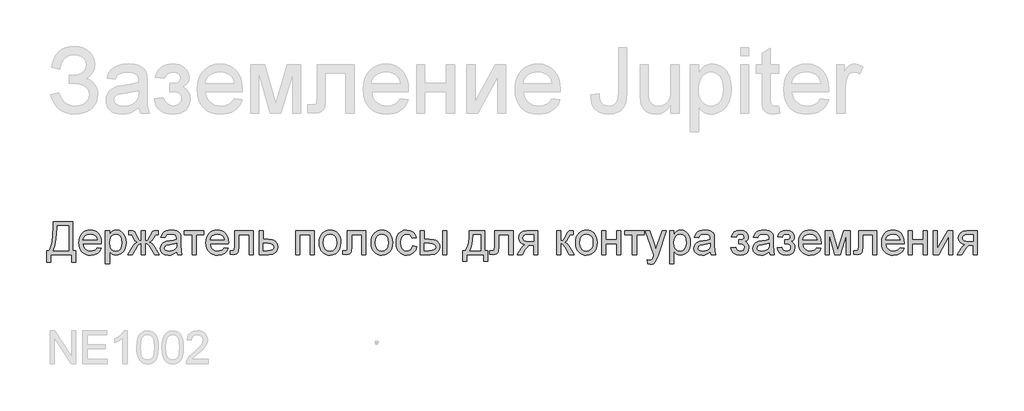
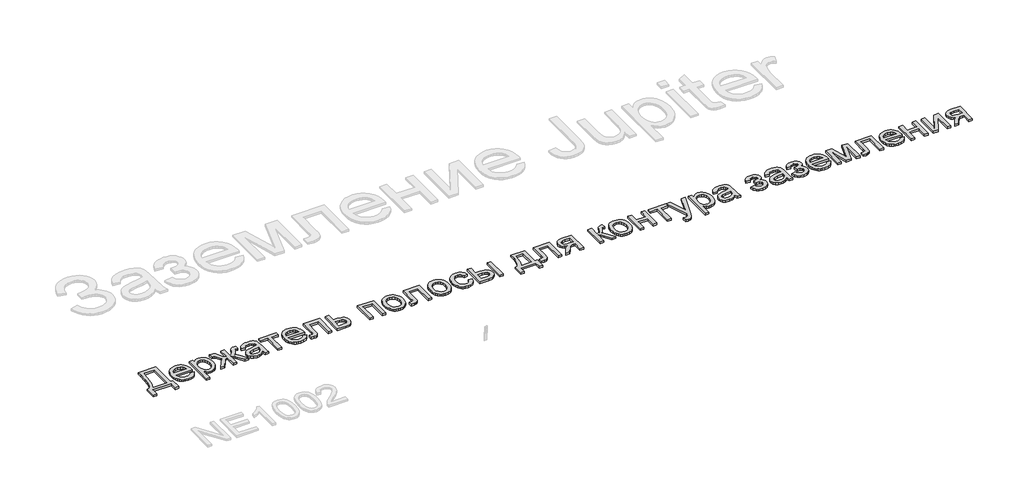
# One storey, part 77 of 124: 1 proxy.
"""IFC4 building model written with IfcOpenShell, lengths in millimetres."""

from ifc_helpers import new_model, si_unit, origin, origin_with_axes, place, context, project, spatial, polyline, outline, extrude, element, save

model = new_model("IFC4")

# Units and contexts
model_context = context("Model", 3, world=origin())
ifc_project = project(units=[si_unit("LENGTHUNIT", "METRE", prefix="MILLI")], contexts=[model_context])

# Site, building, storey
site = spatial("IfcSite", under=ifc_project)
building = spatial("IfcBuilding", under=site)
storey = spatial("IfcBuildingStorey", under=building, Name="Этаж 01", Elevation=0.0)

# Proxy
placement = place(None, origin())
element("IfcBuildingElementProxy", 1, Name="300", ObjectType="300", at=placement, inside=storey, context=model_context, shape_type="SweptSolid", body=[
    extrude(outline(polyline([(32968.1208754, -49773.1294316), (33147.0586778, -49773.1294316), (33147.0586778, -50036.8272457), (33175.3120151, -50036.8272457), (33175.3120151, -50145.1317051), (33137.6408988, -50145.1317051), (33137.6408988, -50074.498362), (32944.5764277, -50074.498362), (32944.5764277, -50145.1317051), (32906.9053114, -50145.1317051), (32906.9053114, -50036.8272457), (32930.4497591, -50036.8272457), (32946.9308725, -50002.6556069), (32958.7030963, -49954.5872257), (32965.7664306, -49892.6221021), (32968.1208754, -49816.7602362), (32968.1208754, -49773.1294316)]), holes=[polyline([(33109.3875615, -49810.8005479), (33005.7919917, -49810.8005479), (33005.7919917, -49825.9572861), (32998.1400462, -49929.1849739), (32986.8092807, -49988.8370394), (32968.1208754, -50036.8272457), (33109.3875615, -50036.8272457), (33109.3875615, -49810.8005479)])]), origin_with_axes(), (0.0, 0.0, 1.0), 20.0),
    extrude(outline(polyline([(33372.6439173, -50008.5739085), (33409.5792696, -50013.282798), (33396.2711384, -50041.1130709), (33375.0351502, -50061.9167978), (33346.3495517, -50074.8846381), (33310.6925893, -50079.2072515), (33287.318287, -50077.3425497), (33266.4915676, -50071.7484441), (33248.2124309, -50062.4249348), (33232.4808771, -50049.3720217), (33219.830335, -50032.9529884), (33210.7942335, -50013.5311184), (33205.3725726, -49991.1064115), (33203.5653523, -49965.6788678), (33205.3909667, -49939.3891007), (33210.8678099, -49916.2171336), (33219.9958819, -49896.1629663), (33232.7751827, -49879.226599), (33248.4653498, -49865.771315), (33266.3260207, -49856.1603979), (33286.3571953, -49850.3938476), (33308.5588737, -49848.4716642), (33330.0454815, -49850.3892491), (33349.4765486, -49856.1420038), (33366.8520751, -49865.7299283), (33382.172061, -49879.1530226), (33394.6777495, -49896.0526017), (33403.6103842, -49916.0699808), (33408.969965, -49939.2051598), (33410.756492, -49965.4581386), (33410.5357628, -49975.6116817), (33241.2364686, -49975.6116817), (33247.757177, -50003.8098366), (33262.9047181, -50024.5399871), (33284.7661057, -50037.2870982), (33311.4283533, -50041.5361352), (33331.477922, -50039.5679666), (33348.3637056, -50033.6634605), (33362.085704, -50023.4547352), (33372.6439173, -50008.5739085)]), holes=[polyline([(33241.2364686, -49937.9405654), (33373.0853757, -49937.9405654), (33367.99021, -49918.0381495), (33358.0022139, -49903.8011162), (33336.0396588, -49890.5573644), (33308.4117209, -49886.1427805), (33283.0186662, -49889.6652506), (33262.0218013, -49900.2326609), (33247.4260832, -49916.7045772), (33241.2364686, -49937.9405654)])]), origin_with_axes(), (0.0, 0.0, 1.0), 20.0),
    extrude(outline(polyline([(33448.4276083, -50159.2583737), (33448.4276083, -49853.1805537), (33486.0987246, -49853.1805537), (33486.0987246, -49890.115906), (33498.3859832, -49871.8965502), (33512.1447698, -49858.8827246), (33528.1844248, -49851.0744293), (33547.3142886, -49848.4716642), (33572.7901168, -49852.1136959), (33595.0653716, -49863.0397912), (33613.2019539, -49880.5877623), (33626.2617648, -49904.0954218), (33634.1528335, -49931.8521184), (33636.7831898, -49962.1472007), (33633.8125427, -49994.3644664), (33624.9006014, -50023.1788237), (33610.3324744, -50047.1279416), (33590.3932702, -50064.7494891), (33567.1707193, -50075.5928109), (33542.7525518, -50079.2072515), (33525.4345069, -50076.7884274), (33509.9742661, -50069.5319551), (33496.7397113, -50058.5782687), (33486.0987246, -50045.0678024), (33486.0987246, -50159.2583737), (33448.4276083, -50159.2583737)]), holes=[polyline([(33486.0987246, -49965.6052914), (33490.1730177, -49999.3768586), (33502.395897, -50022.9948827), (33520.4313118, -50036.9008221), (33541.9432115, -50041.5361352), (33563.804599, -50036.7352752), (33582.2998663, -50022.3326951), (33594.9090217, -49997.8501483), (33599.1120735, -49962.8093883), (33595.0101893, -49929.2217621), (33582.7045365, -49905.2726442), (33564.6967129, -49890.9252464), (33543.4883158, -49886.1427805), (33522.1971454, -49891.2287491), (33503.499543, -49906.4866548), (33490.4489292, -49931.4382511), (33486.0987246, -49965.6052914)])]), origin_with_axes(), (0.0, 0.0, 1.0), 20.0),
    extrude(outline(polyline([(33815.7209923, -49853.1805537), (33815.7209923, -49947.3583445), (33829.0107293, -49945.4177669), (33837.6835474, -49939.5960344), (33858.4688801, -49899.3129559), (33871.4367204, -49874.2050097), (33883.2641266, -49860.6853464), (33897.6299185, -49855.0567519), (33918.5072217, -49853.1805537), (33933.4432307, -49853.1805537), (33933.4432307, -49891.0723992), (33923.0689585, -49890.85167), (33903.6447891, -49894.7512192), (33890.1803081, -49919.1785836), (33874.5453233, -49945.9603929), (33852.2148862, -49959.5720267), (33864.6079109, -49964.874126), (33876.8445858, -49974.2321242), (33900.848886, -50005.1158177), (33942.8610098, -50074.498362), (33899.6716636, -50074.498362), (33858.3217273, -50006.0723109), (33847.018553, -49988.1104725), (33837.242089, -49977.6350327), (33827.3552604, -49972.5858523), (33815.7209923, -49970.9027922), (33815.7209923, -50074.498362), (33778.049876, -50074.498362), (33778.049876, -49970.9027922), (33766.5075784, -49972.5490641), (33756.6023556, -49977.4878799), (33746.7523152, -49987.8897433), (33735.3755645, -50005.9251581), (33694.0256283, -50074.498362), (33650.9098584, -50074.498362), (33692.7748295, -50005.1158177), (33716.9630707, -49974.2321242), (33729.2641249, -49964.874126), (33741.7031348, -49959.5720267), (33727.3189488, -49952.3615396), (33718.0115343, -49944.5624413), (33697.7044482, -49905.9348318), (33687.7716343, -49893.2061148), (33671.5112502, -49890.6309408), (33660.3276375, -49890.85167), (33660.3276375, -49853.1805537), (33665.9930202, -49853.1805537), (33699.0288234, -49855.5349985), (33716.1721244, -49865.5413887), (33735.3755645, -49899.3129559), (33755.940168, -49939.338517), (33764.6129861, -49945.3533876), (33778.049876, -49947.3583445), (33778.049876, -49853.1805537), (33815.7209923, -49853.1805537)])), origin_with_axes(), (0.0, 0.0, 1.0), 20.0),
    extrude(outline(polyline([(34102.9632541, -50046.2450248), (34084.9646275, -50061.6776745), (34066.432572, -50071.7760352), (34046.9440233, -50077.3494475), (34026.0759171, -50079.2072515), (33994.5944154, -50074.7374853), (33971.3718644, -50061.3281866), (33957.0520578, -50040.9659181), (33952.2787889, -50015.6372428), (33954.0814107, -50000.0206521), (33959.489276, -49985.8388012), (33967.8310002, -49973.6986953), (33978.4351987, -49964.2073398), (34004.8123378, -49951.8465048), (34037.4066826, -49946.1811221), (34075.9239275, -49940.2214338), (34102.7425249, -49933.2316759), (34102.9632541, -49924.8439664), (34100.369686, -49908.0317592), (34092.5889818, -49897.0320875), (34075.1881635, -49888.8651072), (34050.94474, -49886.1427805), (34028.5039383, -49887.9545993), (34012.8321653, -49893.3900558), (34002.1451933, -49903.4424313), (33994.6587947, -49919.1050072), (33956.9876784, -49914.3961177), (33963.5267809, -49893.794726), (33973.2848508, -49877.6079182), (33987.1723961, -49865.228689), (34006.0999248, -49856.0500333), (34029.2488993, -49850.3662564), (34055.8007823, -49848.4716642), (34081.2674134, -49850.1455272), (34101.4549379, -49855.1671165), (34116.6760555, -49862.7178944), (34127.2434658, -49871.9793237), (34134.2516178, -49883.4296508), (34138.7949604, -49897.5471223), (34140.6343704, -49930.5093491), (34140.6343704, -49977.3775153), (34142.5473568, -50042.8237222), (34150.0521495, -50074.498362), (34112.3810332, -50074.498362), (34102.9632541, -50046.2450248)]), holes=[polyline([(34102.9632541, -49970.9027922), (34042.1891485, -49982.4542868), (34009.7787447, -49988.5611279), (33995.1002531, -49998.4939418), (33989.9499052, -50012.9884924), (33992.7550054, -50024.1904992), (34001.170306, -50033.3691549), (34015.0118661, -50039.4943902), (34034.0957446, -50041.5361352), (34054.3292543, -50039.282858), (34072.2083193, -50032.5230264), (34086.7028699, -50022.5626213), (34096.7828366, -50010.707624), (34101.2526028, -49998.4939418), (34102.7425249, -49981.57137), (34102.9632541, -49970.9027922)])]), origin_with_axes(), (0.0, 0.0, 1.0), 20.0),
    extrude(outline(polyline([(34173.5965972, -49853.1805537), (34352.5343996, -49853.1805537), (34352.5343996, -49890.85167), (34281.9010566, -49890.85167), (34281.9010566, -50074.498362), (34244.2299402, -50074.498362), (34244.2299402, -49890.85167), (34173.5965972, -49890.85167), (34173.5965972, -49853.1805537)])), origin_with_axes(), (0.0, 0.0, 1.0), 20.0),
    extrude(outline(polyline([(34540.4485228, -50008.5739085), (34577.3838751, -50013.282798), (34564.0757439, -50041.1130709), (34542.8397557, -50061.9167978), (34514.1541572, -50074.8846381), (34478.4971948, -50079.2072515), (34455.1228925, -50077.3425497), (34434.2961731, -50071.7484441), (34416.0170364, -50062.4249348), (34400.2854826, -50049.3720217), (34387.6349405, -50032.9529884), (34378.598839, -50013.5311184), (34373.1771781, -49991.1064115), (34371.3699578, -49965.6788678), (34373.1955722, -49939.3891007), (34378.6724154, -49916.2171336), (34387.8004874, -49896.1629663), (34400.5797882, -49879.226599), (34416.2699553, -49865.771315), (34434.1306262, -49856.1603979), (34454.1618008, -49850.3938476), (34476.3634792, -49848.4716642), (34497.850087, -49850.3892491), (34517.2811541, -49856.1420038), (34534.6566806, -49865.7299283), (34549.9766664, -49879.1530226), (34562.482355, -49896.0526017), (34571.4149897, -49916.0699808), (34576.7745705, -49939.2051598), (34578.5610975, -49965.4581386), (34578.3403683, -49975.6116817), (34409.0410741, -49975.6116817), (34415.5617825, -50003.8098366), (34430.7093236, -50024.5399871), (34452.5707112, -50037.2870982), (34479.2329588, -50041.5361352), (34499.2825275, -50039.5679666), (34516.1683111, -50033.6634605), (34529.8903095, -50023.4547352), (34540.4485228, -50008.5739085)]), holes=[polyline([(34409.0410741, -49937.9405654), (34540.8899812, -49937.9405654), (34535.7948155, -49918.0381495), (34525.8068194, -49903.8011162), (34503.8442642, -49890.5573644), (34476.2163264, -49886.1427805), (34450.8232717, -49889.6652506), (34429.8264068, -49900.2326609), (34415.2306887, -49916.7045772), (34409.0410741, -49937.9405654)])]), origin_with_axes(), (0.0, 0.0, 1.0), 20.0),
    extrude(outline(polyline([(34635.0677719, -49853.1805537), (34804.5877953, -49853.1805537), (34804.5877953, -50074.2776328), (34766.916679, -50074.2776328), (34766.916679, -49890.85167), (34672.7388882, -49890.85167), (34672.7388882, -49996.4338026), (34670.2005025, -50045.1413788), (34665.4456277, -50056.1686416), (34656.2577748, -50065.7059823), (34642.3150472, -50072.3002671), (34623.2955481, -50074.498362), (34592.6877661, -50072.5853756), (34592.6877661, -50036.8272457), (34609.5367615, -50036.8272457), (34626.5696978, -50034.5095891), (34633.3755147, -50027.1519492), (34635.0677719, -49994.3000871), (34635.0677719, -49853.1805537)])), origin_with_axes(), (0.0, 0.0, 1.0), 20.0),
    extrude(outline(polyline([(34861.0944698, -49853.1805537), (34898.7655861, -49853.1805537), (34898.7655861, -49933.2316759), (34942.1756615, -49933.2316759), (34979.8099896, -49937.9497624), (34994.9575308, -49943.8473707), (35007.6586566, -49952.1040222), (35017.7018351, -49962.4346085), (35024.875534, -49974.554021), (35030.6144931, -50004.1593245), (35025.7308597, -50031.1158777), (35011.0799592, -50053.8601821), (34999.848062, -50062.8893858), (34985.6869045, -50069.338817), (34948.5768082, -50074.498362), (34861.0944698, -50074.498362), (34861.0944698, -49853.1805537)]), holes=[polyline([(34898.7655861, -50036.8272457), (34933.9351048, -50036.8272457), (34961.2227518, -50034.84988), (34979.3685312, -50028.9177828), (34989.5496654, -50018.7918309), (34992.9433768, -50004.2329009), (34990.4325822, -49991.9272482), (34982.9001984, -49981.0563352), (34966.7593758, -49973.4411779), (34938.4232651, -49970.9027922), (34898.7655861, -49970.9027922), (34898.7655861, -50036.8272457)])]), origin_with_axes(), (0.0, 0.0, 1.0), 20.0),
    extrude(outline(polyline([(35195.425627, -49853.1805537), (35364.9456504, -49853.1805537), (35364.9456504, -50074.498362), (35327.274534, -50074.498362), (35327.274534, -49890.85167), (35233.0967433, -49890.85167), (35233.0967433, -50074.498362), (35195.425627, -50074.498362), (35195.425627, -49853.1805537)])), origin_with_axes(), (0.0, 0.0, 1.0), 20.0),
    extrude(outline(polyline([(35412.0345457, -49963.8394579), (35414.0716923, -49935.1768519), (35420.1831319, -49910.4781745), (35430.3688647, -49889.7434255), (35444.6288905, -49872.972605), (35458.9854854, -49862.2534434), (35474.8320023, -49854.5968994), (35492.1684413, -49850.002973), (35510.9948024, -49848.4716642), (35531.7778359, -49850.336366), (35550.5697081, -49855.9304716), (35567.3704189, -49865.2539809), (35582.1799685, -49878.306894), (35594.2671913, -49894.6477523), (35602.9009219, -49913.8350977), (35608.0811602, -49935.8689299), (35609.8079063, -49960.7492491), (35606.7544858, -49998.8066415), (35597.5942241, -50027.7773486), (35582.5938358, -50049.4731893), (35562.0200352, -50065.7059823), (35537.5834736, -50075.8319342), (35510.9948024, -50079.2072515), (35489.9082663, -50077.3494475), (35470.9416502, -50071.7760352), (35454.0949541, -50062.4870149), (35439.368178, -50049.4823863), (35427.4097139, -50032.9828788), (35418.8679538, -50013.2092216), (35413.7428978, -49990.1614146), (35412.0345457, -49963.8394579)]), holes=[polyline([(35449.705662, -49963.7658815), (35454.0650637, -49997.8593454), (35467.1432686, -50022.1487541), (35486.8249554, -50036.6892899), (35510.9948024, -50041.5361352), (35535.0542849, -50036.6616988), (35554.6991835, -50022.0383895), (35567.7773884, -49997.427084), (35572.13679, -49962.5886591), (35567.7497972, -49929.4884766), (35554.5888189, -49905.5301616), (35534.9163292, -49890.9896258), (35510.9948024, -49886.1427805), (35486.8249554, -49890.9712317), (35467.1432686, -49905.4565852), (35454.0650637, -49929.6908117), (35449.705662, -49963.7658815)])]), origin_with_axes(), (0.0, 0.0, 1.0), 20.0),
    extrude(outline(polyline([(35671.0234703, -49853.1805537), (35840.5434937, -49853.1805537), (35840.5434937, -50074.2776328), (35802.8723774, -50074.2776328), (35802.8723774, -49890.85167), (35708.6945866, -49890.85167), (35708.6945866, -49996.4338026), (35706.1562009, -50045.1413788), (35701.4013261, -50056.1686416), (35692.2134733, -50065.7059823), (35678.2707456, -50072.3002671), (35659.2512465, -50074.498362), (35628.6434645, -50072.5853756), (35628.6434645, -50036.8272457), (35645.4924599, -50036.8272457), (35662.5253963, -50034.5095891), (35669.3312132, -50027.1519492), (35671.0234703, -49994.3000871), (35671.0234703, -49853.1805537)])), origin_with_axes(), (0.0, 0.0, 1.0), 20.0),
    extrude(outline(polyline([(35887.6323891, -49963.8394579), (35889.6695357, -49935.1768519), (35895.7809753, -49910.4781745), (35905.966708, -49889.7434255), (35920.2267339, -49872.972605), (35934.5833287, -49862.2534434), (35950.4298457, -49854.5968994), (35967.7662847, -49850.002973), (35986.5926458, -49848.4716642), (36007.3756793, -49850.336366), (36026.1675514, -49855.9304716), (36042.9682623, -49865.2539809), (36057.7778119, -49878.306894), (36069.8650347, -49894.6477523), (36078.4987652, -49913.8350977), (36083.6790036, -49935.8689299), (36085.4057497, -49960.7492491), (36082.3523291, -49998.8066415), (36073.1920675, -50027.7773486), (36058.1916791, -50049.4731893), (36037.6178785, -50065.7059823), (36013.181317, -50075.8319342), (35986.5926458, -50079.2072515), (35965.5061097, -50077.3494475), (35946.5394936, -50071.7760352), (35929.6927975, -50062.4870149), (35914.9660213, -50049.4823863), (35903.0075572, -50032.9828788), (35894.4657972, -50013.2092216), (35889.3407411, -49990.1614146), (35887.6323891, -49963.8394579)]), holes=[polyline([(35925.3035054, -49963.7658815), (35929.6629071, -49997.8593454), (35942.741112, -50022.1487541), (35962.4227987, -50036.6892899), (35986.5926458, -50041.5361352), (36010.6521283, -50036.6616988), (36030.2970268, -50022.0383895), (36043.3752318, -49997.427084), (36047.7346334, -49962.5886591), (36043.3476406, -49929.4884766), (36030.1866622, -49905.5301616), (36010.5141725, -49890.9896258), (35986.5926458, -49886.1427805), (35962.4227987, -49890.9712317), (35942.741112, -49905.4565852), (35929.6629071, -49929.6908117), (35925.3035054, -49963.7658815)])]), origin_with_axes(), (0.0, 0.0, 1.0), 20.0),
    extrude(outline(polyline([(36269.0524417, -49994.4472399), (36306.723558, -49999.1561294), (36296.220527, -50032.6609821), (36276.483658, -50057.9804604), (36249.370755, -50073.9005538), (36216.739622, -50079.2072515), (36195.6116992, -50077.3563453), (36176.6680757, -50071.8036264), (36159.9087515, -50062.5490949), (36145.3337267, -50049.5927509), (36133.536211, -50033.1783162), (36125.109414, -50013.5495125), (36120.0533359, -49990.7063398), (36118.3679765, -49964.6487982), (36121.2466531, -49931.1255514), (36129.8826829, -49902.0720709), (36144.4140217, -49878.6103966), (36164.9786253, -49861.8625688), (36189.5807337, -49851.8193903), (36216.2245872, -49848.4716642), (36248.0555768, -49853.0701891), (36273.5038138, -49866.8657639), (36291.7599579, -49889.1226246), (36302.0146685, -49919.1050072), (36264.3435522, -49923.8138968), (36257.5101441, -49907.3787686), (36246.8691574, -49895.5973477), (36233.0092032, -49888.5064223), (36216.5188928, -49886.1427805), (36192.1743018, -49890.7964877), (36172.8513, -49904.7576094), (36160.2421446, -49928.7803037), (36156.0390928, -49963.6187287), (36160.1501741, -49998.9262031), (36172.483418, -50023.0316709), (36191.4569319, -50036.9100191), (36215.4888232, -50041.5361352), (36234.995766, -50038.6482616), (36250.9894357, -50029.9846406), (36262.6237038, -50015.3245431), (36269.0524417, -49994.4472399)])), origin_with_axes(), (0.0, 0.0, 1.0), 20.0),
    extrude(outline(polyline([(36546.8769245, -49853.1805537), (36584.5480408, -49853.1805537), (36584.5480408, -50074.498362), (36546.8769245, -50074.498362), (36546.8769245, -49853.1805537)])), origin_with_axes(), (0.0, 0.0, 1.0), 20.0),
    extrude(outline(polyline([(36339.6857848, -49853.1805537), (36377.3569011, -49853.1805537), (36377.3569011, -49933.2316759), (36423.9307617, -49933.2316759), (36464.186249, -49937.9497624), (36480.4029472, -49943.8473707), (36494.0122818, -49952.1040222), (36504.7797279, -49962.4346085), (36512.4707609, -49974.554021), (36517.0853806, -49988.4622596), (36518.6235872, -50004.1593245), (36513.4640422, -50031.1158777), (36497.9854073, -50053.8601821), (36486.1235122, -50062.8893858), (36471.1760069, -50069.338817), (36432.0241656, -50074.498362), (36339.6857848, -50074.498362), (36339.6857848, -49853.1805537)]), holes=[polyline([(36377.3569011, -50036.8272457), (36416.058087, -50036.8272457), (36446.0588637, -50034.84988), (36466.0164619, -50028.9177828), (36477.2184687, -50018.7918309), (36480.9524709, -50004.2329009), (36478.1841589, -49991.9272482), (36469.8792229, -49981.0563352), (36452.1197196, -49973.4411779), (36420.9877057, -49970.9027922), (36377.3569011, -49970.9027922), (36377.3569011, -50036.8272457)])]), origin_with_axes(), (0.0, 0.0, 1.0), 20.0),
    extrude(outline(polyline([(36791.7391804, -49853.1805537), (36933.0058666, -49853.1805537), (36933.0058666, -50036.8272457), (36961.2592038, -50036.8272457), (36961.2592038, -50135.713926), (36923.5880875, -50135.713926), (36923.5880875, -50074.498362), (36768.1947328, -50074.498362), (36768.1947328, -50135.713926), (36730.5236165, -50135.713926), (36730.5236165, -50036.8272457), (36754.0680641, -50036.8272457), (36771.183774, -50005.897567), (36783.16753, -49964.979892), (36790.0193321, -49914.074221), (36791.7391804, -49853.1805537)]), holes=[polyline([(36824.7014072, -49890.85167), (36821.6111985, -49936.9748752), (36815.8722393, -49976.6785395), (36807.4845298, -50009.962663), (36796.44807, -50036.8272457), (36895.3347503, -50036.8272457), (36895.3347503, -49890.85167), (36824.7014072, -49890.85167)])]), origin_with_axes(), (0.0, 0.0, 1.0), 20.0),
    extrude(outline(polyline([(37022.4747678, -49853.1805537), (37191.9947912, -49853.1805537), (37191.9947912, -50074.2776328), (37154.3236749, -50074.2776328), (37154.3236749, -49890.85167), (37060.1458841, -49890.85167), (37060.1458841, -49996.4338026), (37057.6074984, -50045.1413788), (37052.8526236, -50056.1686416), (37043.6647707, -50065.7059823), (37029.7220431, -50072.3002671), (37010.702544, -50074.498362), (36980.094762, -50072.5853756), (36980.094762, -50036.8272457), (36996.9437574, -50036.8272457), (37013.9766937, -50034.5095891), (37020.7825106, -50027.1519492), (37022.4747678, -49994.3000871), (37022.4747678, -49853.1805537)])), origin_with_axes(), (0.0, 0.0, 1.0), 20.0),
    extrude(outline(polyline([(37418.021489, -49853.1805537), (37418.021489, -50074.498362), (37380.3503727, -50074.498362), (37380.3503727, -49989.7383503), (37359.8225574, -49989.7383503), (37331.8635258, -49994.5208163), (37320.6983072, -50004.9502708), (37305.5967513, -50026.6737026), (37275.5775805, -50074.498362), (37232.0203523, -50074.498362), (37269.8386214, -50014.018562), (37286.540464, -49992.3135243), (37301.9179314, -49982.675016), (37276.1661917, -49974.7839472), (37258.0663975, -49959.7927559), (37247.3610315, -49939.8535518), (37243.7925761, -49917.1184445), (37248.6670126, -49891.3299166), (37263.2903219, -49870.9124659), (37287.1474693, -49857.6135317), (37319.7234199, -49853.1805537), (37418.021489, -49853.1805537)]), holes=[polyline([(37380.3503727, -49890.85167), (37330.6863034, -49890.85167), (37305.0357313, -49893.0313708), (37290.4768013, -49899.5704733), (37283.7169696, -49909.0342376), (37281.4636924, -49919.987924), (37284.7838274, -49934.3445189), (37294.7442325, -49944.3049239), (37313.1475293, -49950.1266565), (37341.7963396, -49952.067234), (37380.3503727, -49952.067234), (37380.3503727, -49890.85167)])]), origin_with_axes(), (0.0, 0.0, 1.0), 20.0),
    extrude(outline(polyline([(37592.250402, -49853.1805537), (37629.9215183, -49853.1805537), (37629.9215183, -49947.3583445), (37645.2438034, -49945.6660873), (37655.1582231, -49940.5893158), (37663.9322087, -49927.3455639), (37675.8331913, -49901.1523659), (37693.0132804, -49867.1232813), (37708.1700186, -49856.0500333), (37735.7243801, -49853.1805537), (37742.9348672, -49853.1805537), (37742.9348672, -49891.0723992), (37732.7813241, -49890.85167), (37714.3872244, -49894.8247956), (37701.4377781, -49919.620042), (37686.2442517, -49946.4386395), (37664.9438842, -49959.5720267), (37676.8816549, -49964.874126), (37688.7090611, -49974.2321242), (37712.0327796, -50005.1158177), (37752.3526463, -50074.498362), (37709.531182, -50074.498362), (37670.0206557, -50006.5873457), (37650.155028, -49977.8557619), (37640.8660076, -49972.6410346), (37629.9215183, -49970.9027922), (37629.9215183, -50074.498362), (37592.250402, -50074.498362), (37592.250402, -49853.1805537)])), origin_with_axes(), (0.0, 0.0, 1.0), 20.0),
    extrude(outline(polyline([(37766.4793149, -49963.8394579), (37768.5164614, -49935.1768519), (37774.6279011, -49910.4781745), (37784.8136338, -49889.7434255), (37799.0736596, -49872.972605), (37813.4302545, -49862.2534434), (37829.2767714, -49854.5968994), (37846.6132105, -49850.002973), (37865.4395716, -49848.4716642), (37886.222605, -49850.336366), (37905.0144772, -49855.9304716), (37921.8151881, -49865.2539809), (37936.6247376, -49878.306894), (37948.7119604, -49894.6477523), (37957.345691, -49913.8350977), (37962.5259294, -49935.8689299), (37964.2526755, -49960.7492491), (37961.1992549, -49998.8066415), (37952.0389932, -50027.7773486), (37937.0386049, -50049.4731893), (37916.4648043, -50065.7059823), (37892.0282428, -50075.8319342), (37865.4395716, -50079.2072515), (37844.3530355, -50077.3494475), (37825.3864193, -50071.7760352), (37808.5397232, -50062.4870149), (37793.8129471, -50049.4823863), (37781.854483, -50032.9828788), (37773.3127229, -50013.2092216), (37768.1876669, -49990.1614146), (37766.4793149, -49963.8394579)]), holes=[polyline([(37804.1504312, -49963.7658815), (37808.5098328, -49997.8593454), (37821.5880377, -50022.1487541), (37841.2697245, -50036.6892899), (37865.4395716, -50041.5361352), (37889.4990541, -50036.6616988), (37909.1439526, -50022.0383895), (37922.2221575, -49997.427084), (37926.5815592, -49962.5886591), (37922.1945664, -49929.4884766), (37909.033588, -49905.5301616), (37889.3610983, -49890.9896258), (37865.4395716, -49886.1427805), (37841.2697245, -49890.9712317), (37821.5880377, -49905.4565852), (37808.5098328, -49929.6908117), (37804.1504312, -49963.7658815)])]), origin_with_axes(), (0.0, 0.0, 1.0), 20.0),
    extrude(outline(polyline([(38006.6326813, -49853.1805537), (38044.3037976, -49853.1805537), (38044.3037976, -49937.9405654), (38143.1904779, -49937.9405654), (38143.1904779, -49853.1805537), (38180.8615942, -49853.1805537), (38180.8615942, -50074.498362), (38143.1904779, -50074.498362), (38143.1904779, -49975.6116817), (38044.3037976, -49975.6116817), (38044.3037976, -50074.498362), (38006.6326813, -50074.498362), (38006.6326813, -49853.1805537)])), origin_with_axes(), (0.0, 0.0, 1.0), 20.0),
    extrude(outline(polyline([(38218.5327105, -49853.1805537), (38397.470513, -49853.1805537), (38397.470513, -49890.85167), (38326.8371699, -49890.85167), (38326.8371699, -50074.498362), (38289.1660536, -50074.498362), (38289.1660536, -49890.85167), (38218.5327105, -49890.85167), (38218.5327105, -49853.1805537)])), origin_with_axes(), (0.0, 0.0, 1.0), 20.0),
    extrude(outline(polyline([(38430.4327398, -50159.2583737), (38425.7238502, -50122.985209), (38444.853714, -50126.2961469), (38462.7327789, -50122.1390804), (38473.6956624, -50110.5507975), (38483.9963583, -50082.8124951), (38486.9394142, -50073.6890216), (38406.8882921, -49853.1805537), (38446.6195476, -49853.1805537), (38489.0731298, -49976.0531401), (38503.861986, -50025.2021746), (38518.6508422, -49981.7920992), (38562.2816468, -49853.1805537), (38601.7185967, -49853.1805537), (38524.6841069, -50079.7958627), (38504.6713264, -50128.9448973), (38494.4258128, -50144.6350644), (38482.8191359, -50155.5059773), (38469.3362608, -50161.8519418), (38453.4621527, -50163.9672632), (38430.4327398, -50159.2583737)])), origin_with_axes(), (0.0, 0.0, 1.0), 20.0),
    extrude(outline(polyline([(38632.9149899, -50159.2583737), (38632.9149899, -49853.1805537), (38670.5861062, -49853.1805537), (38670.5861062, -49890.115906), (38682.8733649, -49871.8965502), (38696.6321515, -49858.8827246), (38712.6718065, -49851.0744293), (38731.8016702, -49848.4716642), (38757.2774984, -49852.1136959), (38779.5527532, -49863.0397912), (38797.6893355, -49880.5877623), (38810.7491464, -49904.0954218), (38818.6402152, -49931.8521184), (38821.2705714, -49962.1472007), (38818.2999243, -49994.3644664), (38809.387983, -50023.1788237), (38794.819856, -50047.1279416), (38774.8806518, -50064.7494891), (38751.6581009, -50075.5928109), (38727.2399335, -50079.2072515), (38709.9218885, -50076.7884274), (38694.4616477, -50069.5319551), (38681.2270929, -50058.5782687), (38670.5861062, -50045.0678024), (38670.5861062, -50159.2583737), (38632.9149899, -50159.2583737)]), holes=[polyline([(38670.5861062, -49965.6052914), (38674.6603993, -49999.3768586), (38686.8832786, -50022.9948827), (38704.9186934, -50036.9008221), (38726.4305931, -50041.5361352), (38748.2919806, -50036.7352752), (38766.787248, -50022.3326951), (38779.3964033, -49997.8501483), (38783.5994551, -49962.8093883), (38779.4975709, -49929.2217621), (38767.1919181, -49905.2726442), (38749.1840945, -49890.9252464), (38727.9756975, -49886.1427805), (38706.684527, -49891.2287491), (38687.9869246, -49906.4866548), (38674.9363108, -49931.4382511), (38670.5861062, -49965.6052914)])]), origin_with_axes(), (0.0, 0.0, 1.0), 20.0),
    extrude(outline(polyline([(39004.9172634, -50046.2450248), (38986.9186368, -50061.6776745), (38968.3865813, -50071.7760352), (38948.8980326, -50077.3494475), (38928.0299264, -50079.2072515), (38896.5484247, -50074.7374853), (38873.3258738, -50061.3281866), (38859.0060671, -50040.9659181), (38854.2327982, -50015.6372428), (38856.03542, -50000.0206521), (38861.4432853, -49985.8388012), (38869.7850096, -49973.6986953), (38880.3892081, -49964.2073398), (38906.7663471, -49951.8465048), (38939.3606919, -49946.1811221), (38977.8779368, -49940.2214338), (39004.6965342, -49933.2316759), (39004.9172634, -49924.8439664), (39002.3236954, -49908.0317592), (38994.5429912, -49897.0320875), (38977.1421728, -49888.8651072), (38952.8987493, -49886.1427805), (38930.4579476, -49887.9545993), (38914.7861746, -49893.3900558), (38904.0992027, -49903.4424313), (38896.6128041, -49919.1050072), (38858.9416877, -49914.3961177), (38865.4807902, -49893.794726), (38875.2388601, -49877.6079182), (38889.1264054, -49865.228689), (38908.0539341, -49856.0500333), (38931.2029086, -49850.3662564), (38957.7547917, -49848.4716642), (38983.2214228, -49850.1455272), (39003.4089473, -49855.1671165), (39018.6300648, -49862.7178944), (39029.1974751, -49871.9793237), (39036.2056271, -49883.4296508), (39040.7489698, -49897.5471223), (39042.5883797, -49930.5093491), (39042.5883797, -49977.3775153), (39044.5013661, -50042.8237222), (39052.0061588, -50074.498362), (39014.3350425, -50074.498362), (39004.9172634, -50046.2450248)]), holes=[polyline([(39004.9172634, -49970.9027922), (38944.1431578, -49982.4542868), (38911.7327541, -49988.5611279), (38897.0542624, -49998.4939418), (38891.9039145, -50012.9884924), (38894.7090147, -50024.1904992), (38903.1243154, -50033.3691549), (38916.9658754, -50039.4943902), (38936.0497539, -50041.5361352), (38956.2832637, -50039.282858), (38974.1623286, -50032.5230264), (38988.6568792, -50022.5626213), (38998.7368459, -50010.707624), (39003.2066122, -49998.4939418), (39004.6965342, -49981.57137), (39004.9172634, -49970.9027922)])]), origin_with_axes(), (0.0, 0.0, 1.0), 20.0),
    extrude(outline(polyline([(39263.906188, -49975.6116817), (39263.906188, -49937.9405654), (39293.6310532, -49936.4690374), (39308.6406386, -49928.6331509), (39313.9381394, -49921.2847081), (39315.703973, -49912.2624021), (39313.3403311, -49901.547839), (39306.2494057, -49893.242903), (39295.424478, -49887.9178111), (39281.8588294, -49886.1427805), (39268.146028, -49887.908614), (39256.6589127, -49893.2061148), (39247.3974835, -49902.0352827), (39240.3617403, -49914.3961177), (39197.9817345, -49909.6872282), (39209.2205295, -49882.9054189), (39226.3086481, -49863.7755552), (39249.2460905, -49852.2976369), (39278.0328567, -49848.4716642), (39309.5235554, -49853.1345685), (39333.3623087, -49867.1232813), (39348.3718941, -49887.5867173), (39353.3750893, -49911.6737909), (39351.5954601, -49924.034626), (39346.2565727, -49935.0710858), (39337.3584269, -49944.7831705), (39324.9010228, -49953.17088), (39339.4415587, -49963.6371228), (39349.8066339, -49976.6417513), (39356.0146426, -49992.2215538), (39358.0839788, -50010.4133184), (39352.8324633, -50038.1424238), (39337.0779169, -50060.114176), (39311.8871973, -50074.4339827), (39278.3271622, -50079.2072515), (39245.5028912, -50074.7926676), (39220.385748, -50061.5489158), (39202.9757326, -50039.4759961), (39193.272845, -50008.5739085), (39235.6528508, -50003.8650189), (39241.9988152, -50019.7943093), (39252.648999, -50031.6768978), (39266.3709974, -50039.0713259), (39281.9324058, -50041.5361352), (39297.089144, -50039.1724934), (39309.449979, -50032.081568), (39317.6721416, -50021.3118225), (39320.4128625, -50007.9117209), (39318.7114083, -49997.2983253), (39313.6070456, -49988.1196695), (39299.112495, -49977.5246681), (39271.2638279, -49975.3909525), (39263.906188, -49975.6116817)])), origin_with_axes(), (0.0, 0.0, 1.0), 20.0),
    extrude(outline(polyline([(39546.4395603, -50046.2450248), (39528.4409337, -50061.6776745), (39509.9088782, -50071.7760352), (39490.4203295, -50077.3494475), (39469.5522233, -50079.2072515), (39438.0707216, -50074.7374853), (39414.8481707, -50061.3281866), (39400.528364, -50040.9659181), (39395.7550951, -50015.6372428), (39397.5577169, -50000.0206521), (39402.9655822, -49985.8388012), (39411.3073065, -49973.6986953), (39421.911505, -49964.2073398), (39448.288644, -49951.8465048), (39480.8829888, -49946.1811221), (39519.4002337, -49940.2214338), (39546.2188311, -49933.2316759), (39546.4395603, -49924.8439664), (39543.8459923, -49908.0317592), (39536.0652881, -49897.0320875), (39518.6644697, -49888.8651072), (39494.4210462, -49886.1427805), (39471.9802445, -49887.9545993), (39456.3084715, -49893.3900558), (39445.6214996, -49903.4424313), (39438.135101, -49919.1050072), (39400.4639846, -49914.3961177), (39407.0030871, -49893.794726), (39416.761157, -49877.6079182), (39430.6487024, -49865.228689), (39449.576231, -49856.0500333), (39472.7252055, -49850.3662564), (39499.2770886, -49848.4716642), (39524.7437197, -49850.1455272), (39544.9312442, -49855.1671165), (39560.1523617, -49862.7178944), (39570.719772, -49871.9793237), (39577.727924, -49883.4296508), (39582.2712667, -49897.5471223), (39584.1106766, -49930.5093491), (39584.1106766, -49977.3775153), (39586.023663, -50042.8237222), (39593.5284557, -50074.498362), (39555.8573394, -50074.498362), (39546.4395603, -50046.2450248)]), holes=[polyline([(39546.4395603, -49970.9027922), (39485.6654547, -49982.4542868), (39453.255051, -49988.5611279), (39438.5765593, -49998.4939418), (39433.4262114, -50012.9884924), (39436.2313116, -50024.1904992), (39444.6466123, -50033.3691549), (39458.4881723, -50039.4943902), (39477.5720508, -50041.5361352), (39497.8055606, -50039.282858), (39515.6846255, -50032.5230264), (39530.1791761, -50022.5626213), (39540.2591428, -50010.707624), (39544.7289091, -49998.4939418), (39546.2188311, -49981.57137), (39546.4395603, -49970.9027922)])]), origin_with_axes(), (0.0, 0.0, 1.0), 20.0),
    extrude(outline(polyline([(39687.7062465, -49975.6116817), (39687.7062465, -49937.9405654), (39717.4311117, -49936.4690374), (39732.4406971, -49928.6331509), (39737.7381978, -49921.2847081), (39739.5040314, -49912.2624021), (39737.1403896, -49901.547839), (39730.0494641, -49893.242903), (39719.2245364, -49887.9178111), (39705.6588878, -49886.1427805), (39691.9460865, -49887.908614), (39680.4589712, -49893.2061148), (39671.1975419, -49902.0352827), (39664.1617988, -49914.3961177), (39621.7817929, -49909.6872282), (39633.0205879, -49882.9054189), (39650.1087066, -49863.7755552), (39673.046149, -49852.2976369), (39701.8329151, -49848.4716642), (39733.3236139, -49853.1345685), (39757.1623672, -49867.1232813), (39772.1719526, -49887.5867173), (39777.1751477, -49911.6737909), (39775.3955186, -49924.034626), (39770.0566311, -49935.0710858), (39761.1584853, -49944.7831705), (39748.7010813, -49953.17088), (39763.2416171, -49963.6371228), (39773.6066924, -49976.6417513), (39779.814701, -49992.2215538), (39781.8840372, -50010.4133184), (39776.6325218, -50038.1424238), (39760.8779753, -50060.114176), (39735.6872557, -50074.4339827), (39702.1272207, -50079.2072515), (39669.3029497, -50074.7926676), (39644.1858065, -50061.5489158), (39626.775791, -50039.4759961), (39617.0729034, -50008.5739085), (39659.4529093, -50003.8650189), (39665.7988737, -50019.7943093), (39676.4490574, -50031.6768978), (39690.1710558, -50039.0713259), (39705.7324642, -50041.5361352), (39720.8892024, -50039.1724934), (39733.2500375, -50032.081568), (39741.4722001, -50021.3118225), (39744.2129209, -50007.9117209), (39742.5114667, -49997.2983253), (39737.407104, -49988.1196695), (39722.9125534, -49977.5246681), (39695.0638864, -49975.3909525), (39687.7062465, -49975.6116817)])), origin_with_axes(), (0.0, 0.0, 1.0), 20.0),
    extrude(outline(polyline([(39983.924829, -50008.5739085), (40020.8601813, -50013.282798), (40007.5520501, -50041.1130709), (39986.316062, -50061.9167978), (39957.6304634, -50074.8846381), (39921.973501, -50079.2072515), (39898.5991987, -50077.3425497), (39877.7724793, -50071.7484441), (39859.4933427, -50062.4249348), (39843.7617888, -50049.3720217), (39831.1112467, -50032.9529884), (39822.0751452, -50013.5311184), (39816.6534843, -49991.1064115), (39814.846264, -49965.6788678), (39816.6718784, -49939.3891007), (39822.1487216, -49916.2171336), (39831.2767936, -49896.1629663), (39844.0560944, -49879.226599), (39859.7462615, -49865.771315), (39877.6069324, -49856.1603979), (39897.638107, -49850.3938476), (39919.8397854, -49848.4716642), (39941.3263932, -49850.3892491), (39960.7574604, -49856.1420038), (39978.1329868, -49865.7299283), (39993.4529727, -49879.1530226), (40005.9586612, -49896.0526017), (40014.8912959, -49916.0699808), (40020.2508768, -49939.2051598), (40022.0374037, -49965.4581386), (40021.8166745, -49975.6116817), (39852.5173803, -49975.6116817), (39859.0380887, -50003.8098366), (39874.1856298, -50024.5399871), (39896.0470174, -50037.2870982), (39922.709265, -50041.5361352), (39942.7588337, -50039.5679666), (39959.6446173, -50033.6634605), (39973.3666157, -50023.4547352), (39983.924829, -50008.5739085)]), holes=[polyline([(39852.5173803, -49937.9405654), (39984.3662874, -49937.9405654), (39979.2711218, -49918.0381495), (39969.2831256, -49903.8011162), (39947.3205705, -49890.5573644), (39919.6926326, -49886.1427805), (39894.2995779, -49889.6652506), (39873.302713, -49900.2326609), (39858.7069949, -49916.7045772), (39852.5173803, -49937.9405654)])]), origin_with_axes(), (0.0, 0.0, 1.0), 20.0),
    extrude(outline(polyline([(40059.70852, -49853.1805537), (40124.5293276, -49853.1805537), (40174.4877025, -50030.3525226), (40228.3456266, -49853.1805537), (40290.4441074, -49853.1805537), (40290.4441074, -50074.498362), (40252.7729911, -50074.498362), (40252.7729911, -49896.2963235), (40198.6207614, -50074.498362), (40149.1774212, -50074.498362), (40097.3796363, -49887.7614613), (40097.3796363, -50074.498362), (40059.70852, -50074.498362), (40059.70852, -49853.1805537)])), origin_with_axes(), (0.0, 0.0, 1.0), 20.0),
    extrude(outline(polyline([(40365.78634, -49853.1805537), (40535.3063634, -49853.1805537), (40535.3063634, -50074.2776328), (40497.6352471, -50074.2776328), (40497.6352471, -49890.85167), (40403.4574563, -49890.85167), (40403.4574563, -49996.4338026), (40400.9190705, -50045.1413788), (40396.1641957, -50056.1686416), (40386.9763429, -50065.7059823), (40373.0336153, -50072.3002671), (40354.0141161, -50074.498362), (40323.4063341, -50072.5853756), (40323.4063341, -50036.8272457), (40340.2553295, -50036.8272457), (40357.2882659, -50034.5095891), (40364.0940828, -50027.1519492), (40365.78634, -49994.3000871), (40365.78634, -49853.1805537)])), origin_with_axes(), (0.0, 0.0, 1.0), 20.0),
    extrude(outline(polyline([(40746.7649342, -50008.5739085), (40783.7002865, -50013.282798), (40770.3921553, -50041.1130709), (40749.1561672, -50061.9167978), (40720.4705686, -50074.8846381), (40684.8136062, -50079.2072515), (40661.4393039, -50077.3425497), (40640.6125845, -50071.7484441), (40622.3334479, -50062.4249348), (40606.601894, -50049.3720217), (40593.9513519, -50032.9529884), (40584.9152504, -50013.5311184), (40579.4935895, -49991.1064115), (40577.6863692, -49965.6788678), (40579.5119836, -49939.3891007), (40584.9888268, -49916.2171336), (40594.1168988, -49896.1629663), (40606.8961996, -49879.226599), (40622.5863667, -49865.771315), (40640.4470376, -49856.1603979), (40660.4782122, -49850.3938476), (40682.6798906, -49848.4716642), (40704.1664984, -49850.3892491), (40723.5975655, -49856.1420038), (40740.973092, -49865.7299283), (40756.2930779, -49879.1530226), (40768.7987664, -49896.0526017), (40777.7314011, -49916.0699808), (40783.090982, -49939.2051598), (40784.8775089, -49965.4581386), (40784.6567797, -49975.6116817), (40615.3574855, -49975.6116817), (40621.8781939, -50003.8098366), (40637.025735, -50024.5399871), (40658.8871226, -50037.2870982), (40685.5493702, -50041.5361352), (40705.5989389, -50039.5679666), (40722.4847225, -50033.6634605), (40736.2067209, -50023.4547352), (40746.7649342, -50008.5739085)]), holes=[polyline([(40615.3574855, -49937.9405654), (40747.2063926, -49937.9405654), (40742.111227, -49918.0381495), (40732.1232308, -49903.8011162), (40710.1606757, -49890.5573644), (40682.5327378, -49886.1427805), (40657.1396831, -49889.6652506), (40636.1428182, -49900.2326609), (40621.5471001, -49916.7045772), (40615.3574855, -49937.9405654)])]), origin_with_axes(), (0.0, 0.0, 1.0), 20.0),
    extrude(outline(polyline([(40822.5486252, -49853.1805537), (40860.2197415, -49853.1805537), (40860.2197415, -49937.9405654), (40959.1064218, -49937.9405654), (40959.1064218, -49853.1805537), (40996.7775381, -49853.1805537), (40996.7775381, -50074.498362), (40959.1064218, -50074.498362), (40959.1064218, -49975.6116817), (40860.2197415, -49975.6116817), (40860.2197415, -50074.498362), (40822.5486252, -50074.498362), (40822.5486252, -49853.1805537)])), origin_with_axes(), (0.0, 0.0, 1.0), 20.0),
    extrude(outline(polyline([(41053.2842126, -49853.1805537), (41090.9553289, -49853.1805537), (41090.9553289, -50021.9648131), (41183.5144389, -49853.1805537), (41232.222015, -49853.1805537), (41232.222015, -50074.498362), (41194.5508987, -50074.498362), (41194.5508987, -49906.7441722), (41102.5803999, -50074.498362), (41053.2842126, -50074.498362), (41053.2842126, -49853.1805537)])), origin_with_axes(), (0.0, 0.0, 1.0), 20.0),
    extrude(outline(polyline([(41458.2487129, -49853.1805537), (41458.2487129, -50074.498362), (41420.5775966, -50074.498362), (41420.5775966, -49989.7383503), (41400.0497812, -49989.7383503), (41372.0907496, -49994.5208163), (41360.925531, -50004.9502708), (41345.8239751, -50026.6737026), (41315.8048043, -50074.498362), (41272.2475761, -50074.498362), (41310.0658452, -50014.018562), (41326.7676878, -49992.3135243), (41342.1451552, -49982.675016), (41316.3934155, -49974.7839472), (41298.2936214, -49959.7927559), (41287.5882553, -49939.8535518), (41284.0198, -49917.1184445), (41288.8942364, -49891.3299166), (41303.5175457, -49870.9124659), (41327.3746931, -49857.6135317), (41359.9506438, -49853.1805537), (41458.2487129, -49853.1805537)]), holes=[polyline([(41420.5775966, -49890.85167), (41370.9135272, -49890.85167), (41345.2629551, -49893.0313708), (41330.7040251, -49899.5704733), (41323.9441935, -49909.0342376), (41321.6909163, -49919.987924), (41325.0110513, -49934.3445189), (41334.9714563, -49944.3049239), (41353.3747531, -49950.1266565), (41382.0235635, -49952.067234), (41420.5775966, -49952.067234), (41420.5775966, -49890.85167)])]), origin_with_axes(), (0.0, 0.0, 1.0), 20.0),
])

save(model, "model.ifc")
